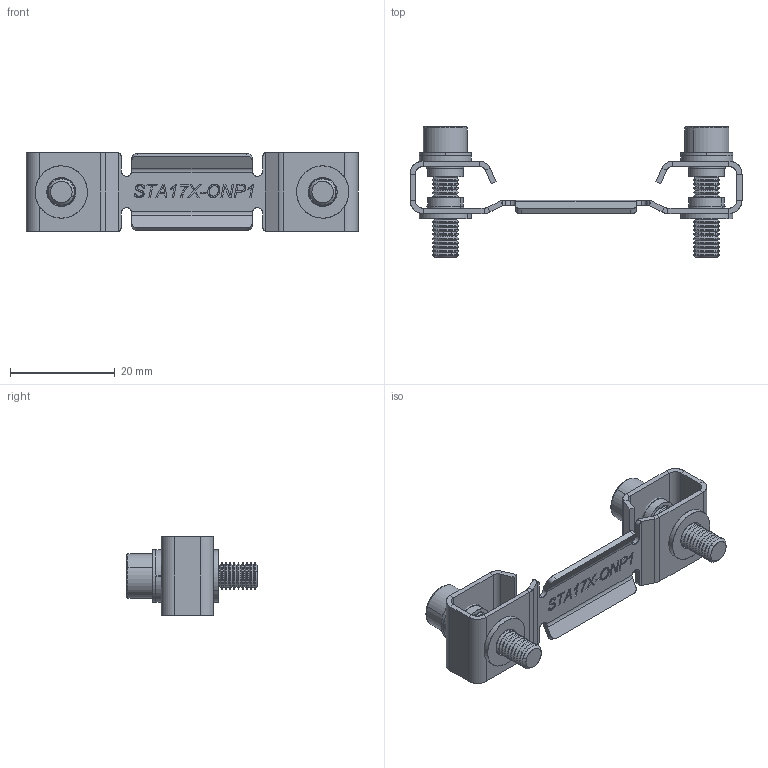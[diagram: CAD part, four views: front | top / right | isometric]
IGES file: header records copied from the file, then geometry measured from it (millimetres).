
Start section: SolidWorks IGES file using analytic representation for surfaces
Global section: file name: \\srv4gefran\dir-cat\Disegni Catalogo\Posizione\WPG\WPG-A-0100\3D\Solidworks 2019\PKIT591\PKIT591X.IGS; native system: SolidWorks 2019; preprocessor: SolidWorks 2019; author: Loda-w1; date: 181217.141057; units: millimetre
Bounding box: 63.5 x 25 x 15 mm (x, y, z)
Surface area: 6301.8 mm2 (no closed solid volume)
Topology: 0 solids, 0 shells, 745 faces, 6759 edges, 6755 vertices
Faces by surface type: revolution 416, bspline 329
